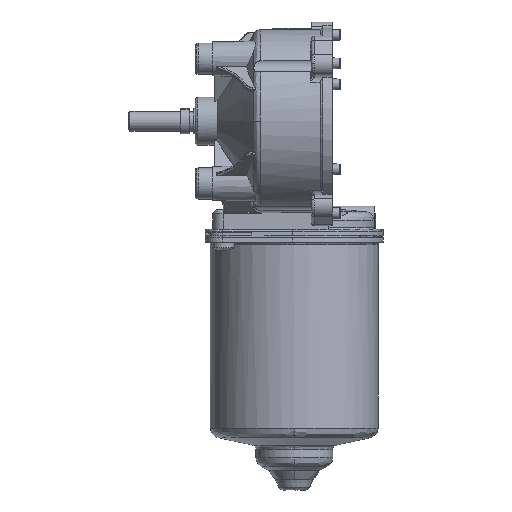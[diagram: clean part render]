
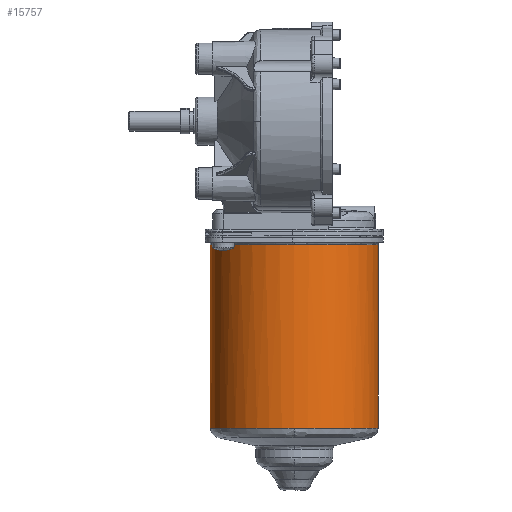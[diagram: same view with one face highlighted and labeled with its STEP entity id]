
A CAD part, front view. The second image highlights one B-rep face of the part: STEP entity #15757.
In plain terms, the highlighted cylindrical face has radius 29.599 mm (diameter 59.199 mm), a partial arc.
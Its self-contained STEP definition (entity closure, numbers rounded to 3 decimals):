
#268 = EDGE_CURVE ( 'NONE', #16842, #16709, #5175, .T. ) ;
#801 = EDGE_CURVE ( 'NONE', #17580, #16681, #25168, .T. ) ;
#2457 = DIRECTION ( 'NONE',  ( 0., 0., 1. ) ) ;
#2462 = DIRECTION ( 'NONE',  ( 1., 0., 0. ) ) ;
#2475 = CARTESIAN_POINT ( 'NONE',  ( 24.999, 31.001, -108.318 ) ) ;
#3426 = EDGE_LOOP ( 'NONE', ( #20672, #20671, #20670, #20669, #20668, #20667 ) ) ;
#3969 = CARTESIAN_POINT ( 'NONE',  ( 24.999, 1.401, -108.318 ) ) ;
#4246 = CARTESIAN_POINT ( 'NONE',  ( -4.6, 31.001, -43.7 ) ) ;
#4255 = CARTESIAN_POINT ( 'NONE',  ( 24.999, 1.401, -43.7 ) ) ;
#4387 = CARTESIAN_POINT ( 'NONE',  ( 54.599, 31.001, -43.7 ) ) ;
#4860 = CARTESIAN_POINT ( 'NONE',  ( 54.599, 31.001, -108.318 ) ) ;
#4979 = CARTESIAN_POINT ( 'NONE',  ( -4.6, 31.001, -108.318 ) ) ;
#5175 = CIRCLE ( 'NONE', #17666, 29.599 ) ;
#5783 = FACE_OUTER_BOUND ( 'NONE', #3426, .T. ) ;
#5786 = CYLINDRICAL_SURFACE ( 'NONE', #31794, 29.599 ) ;
#6382 = CARTESIAN_POINT ( 'NONE',  ( 48.534, 12.945, -108.318 ) ) ;
#6390 = CARTESIAN_POINT ( 'NONE',  ( 47.299, 11.44, -108.318 ) ) ;
#6392 = CARTESIAN_POINT ( 'NONE',  ( 44.559, 8.701, -108.318 ) ) ;
#6404 = CARTESIAN_POINT ( 'NONE',  ( 43.055, 7.466, -108.318 ) ) ;
#6421 = CARTESIAN_POINT ( 'NONE',  ( 24.999, 1.401, -108.318 ) ) ;
#6742 = CARTESIAN_POINT ( 'NONE',  ( 53.652, 23.326, -108.318 ) ) ;
#6745 = CARTESIAN_POINT ( 'NONE',  ( 53.087, 21.463, -108.318 ) ) ;
#6746 = CARTESIAN_POINT ( 'NONE',  ( 51.604, 17.884, -108.318 ) ) ;
#6790 = CARTESIAN_POINT ( 'NONE',  ( 54.599, 31.001, -108.318 ) ) ;
#6802 = CARTESIAN_POINT ( 'NONE',  ( 54.599, 29.063, -108.318 ) ) ;
#6810 = CARTESIAN_POINT ( 'NONE',  ( 54.408, 27.126, -108.318 ) ) ;
#6948 = CARTESIAN_POINT ( 'NONE',  ( 34.537, 2.913, -108.318 ) ) ;
#6951 = CARTESIAN_POINT ( 'NONE',  ( 32.674, 2.348, -108.318 ) ) ;
#7001 = CARTESIAN_POINT ( 'NONE',  ( 28.874, 1.592, -108.318 ) ) ;
#7007 = CARTESIAN_POINT ( 'NONE',  ( 26.936, 1.401, -108.318 ) ) ;
#7029 = CARTESIAN_POINT ( 'NONE',  ( 39.833, 5.313, -108.318 ) ) ;
#7038 = CARTESIAN_POINT ( 'NONE',  ( 38.116, 4.396, -108.318 ) ) ;
#7072 = CARTESIAN_POINT ( 'NONE',  ( 50.687, 16.167, -108.318 ) ) ;
#13060 = B_SPLINE_CURVE_WITH_KNOTS ( 'NONE', 3,
 ( #29317, #14067, #14068, #14069, #14070, #14071, #14072, #14073, #14074, #14075, #14076, #14077, #14078, #14079, #14080, #14081, #14082, #14083 ),
 .UNSPECIFIED., .F., .F.,
 ( 4, 2, 2, 2, 2, 2, 2, 2, 4 ),
 ( 0.5, 0.563, 0.625, 0.688, 0.75, 0.813, 0.875, 0.938, 1. ),
 .UNSPECIFIED. ) ;
#14067 = CARTESIAN_POINT ( 'NONE',  ( -4.6, 29.063, -108.318 ) ) ;
#14068 = CARTESIAN_POINT ( 'NONE',  ( -4.41, 27.126, -108.318 ) ) ;
#14069 = CARTESIAN_POINT ( 'NONE',  ( -3.654, 23.326, -108.318 ) ) ;
#14070 = CARTESIAN_POINT ( 'NONE',  ( -3.089, 21.463, -108.318 ) ) ;
#14071 = CARTESIAN_POINT ( 'NONE',  ( -1.606, 17.884, -108.318 ) ) ;
#14072 = CARTESIAN_POINT ( 'NONE',  ( -0.688, 16.167, -108.318 ) ) ;
#14073 = CARTESIAN_POINT ( 'NONE',  ( 1.464, 12.945, -108.318 ) ) ;
#14074 = CARTESIAN_POINT ( 'NONE',  ( 2.699, 11.44, -108.318 ) ) ;
#14075 = CARTESIAN_POINT ( 'NONE',  ( 5.439, 8.701, -108.318 ) ) ;
#14076 = CARTESIAN_POINT ( 'NONE',  ( 6.944, 7.466, -108.318 ) ) ;
#14077 = CARTESIAN_POINT ( 'NONE',  ( 10.165, 5.313, -108.318 ) ) ;
#14078 = CARTESIAN_POINT ( 'NONE',  ( 11.882, 4.396, -108.318 ) ) ;
#14079 = CARTESIAN_POINT ( 'NONE',  ( 15.462, 2.913, -108.318 ) ) ;
#14080 = CARTESIAN_POINT ( 'NONE',  ( 17.325, 2.348, -108.318 ) ) ;
#14081 = CARTESIAN_POINT ( 'NONE',  ( 21.125, 1.592, -108.318 ) ) ;
#14082 = CARTESIAN_POINT ( 'NONE',  ( 23.062, 1.401, -108.318 ) ) ;
#14083 = CARTESIAN_POINT ( 'NONE',  ( 24.999, 1.401, -108.318 ) ) ;
#14240 = CARTESIAN_POINT ( 'NONE',  ( 24.999, 31.001, -43.7 ) ) ;
#14241 = DIRECTION ( 'NONE',  ( 0., 0., -1. ) ) ;
#14242 = DIRECTION ( 'NONE',  ( 0., -1., 0. ) ) ;
#15757 = ADVANCED_FACE ( 'NONE', ( #5783 ), #5786, .T. ) ;
#16416 = VERTEX_POINT ( 'NONE', #4979 ) ;
#16681 = VERTEX_POINT ( 'NONE', #4860 ) ;
#16709 = VERTEX_POINT ( 'NONE', #4246 ) ;
#16834 = VERTEX_POINT ( 'NONE', #4387 ) ;
#16842 = VERTEX_POINT ( 'NONE', #4255 ) ;
#17580 = VERTEX_POINT ( 'NONE', #3969 ) ;
#17666 = AXIS2_PLACEMENT_3D ( 'NONE', #25466, #25458, #25457 ) ;
#17853 = EDGE_CURVE ( 'NONE', #16681, #16834, #19212, .T. ) ;
#18121 = EDGE_CURVE ( 'NONE', #16416, #16709, #19376, .T. ) ;
#18541 = EDGE_CURVE ( 'NONE', #16416, #17580, #13060, .T. ) ;
#18565 = EDGE_CURVE ( 'NONE', #16834, #16842, #19690, .T. ) ;
#19212 = LINE ( 'NONE', #27642, #19213 ) ;
#19213 = VECTOR ( 'NONE', #27275, 1000. ) ;
#19374 = VECTOR ( 'NONE', #22342, 1000. ) ;
#19376 = LINE ( 'NONE', #22888, #19374 ) ;
#19690 = CIRCLE ( 'NONE', #31549, 29.599 ) ;
#20667 = ORIENTED_EDGE ( 'NONE', *, *, #268, .T. ) ;
#20668 = ORIENTED_EDGE ( 'NONE', *, *, #18565, .T. ) ;
#20669 = ORIENTED_EDGE ( 'NONE', *, *, #17853, .T. ) ;
#20670 = ORIENTED_EDGE ( 'NONE', *, *, #801, .T. ) ;
#20671 = ORIENTED_EDGE ( 'NONE', *, *, #18541, .T. ) ;
#20672 = ORIENTED_EDGE ( 'NONE', *, *, #18121, .F. ) ;
#22342 = DIRECTION ( 'NONE',  ( 0., 0., 1. ) ) ;
#22888 = CARTESIAN_POINT ( 'NONE',  ( -4.6, 31.001, -108.318 ) ) ;
#25168 = B_SPLINE_CURVE_WITH_KNOTS ( 'NONE', 3,
 ( #6421, #7007, #7001, #6951, #6948, #7038, #7029, #6404, #6392, #6390, #6382, #7072, #6746, #6745, #6742, #6810, #6802, #6790 ),
 .UNSPECIFIED., .F., .F.,
 ( 4, 2, 2, 2, 2, 2, 2, 2, 4 ),
 ( 0., 0.062, 0.125, 0.187, 0.25, 0.313, 0.375, 0.437, 0.5 ),
 .UNSPECIFIED. ) ;
#25457 = DIRECTION ( 'NONE',  ( 0., -1., 0. ) ) ;
#25458 = DIRECTION ( 'NONE',  ( 0., 0., -1. ) ) ;
#25466 = CARTESIAN_POINT ( 'NONE',  ( 24.999, 31.001, -43.7 ) ) ;
#27275 = DIRECTION ( 'NONE',  ( 0., 0., 1. ) ) ;
#27642 = CARTESIAN_POINT ( 'NONE',  ( 54.599, 31.001, -108.318 ) ) ;
#29317 = CARTESIAN_POINT ( 'NONE',  ( -4.6, 31.001, -108.318 ) ) ;
#31549 = AXIS2_PLACEMENT_3D ( 'NONE', #14240, #14241, #14242 ) ;
#31794 = AXIS2_PLACEMENT_3D ( 'NONE', #2475, #2457, #2462 ) ;
